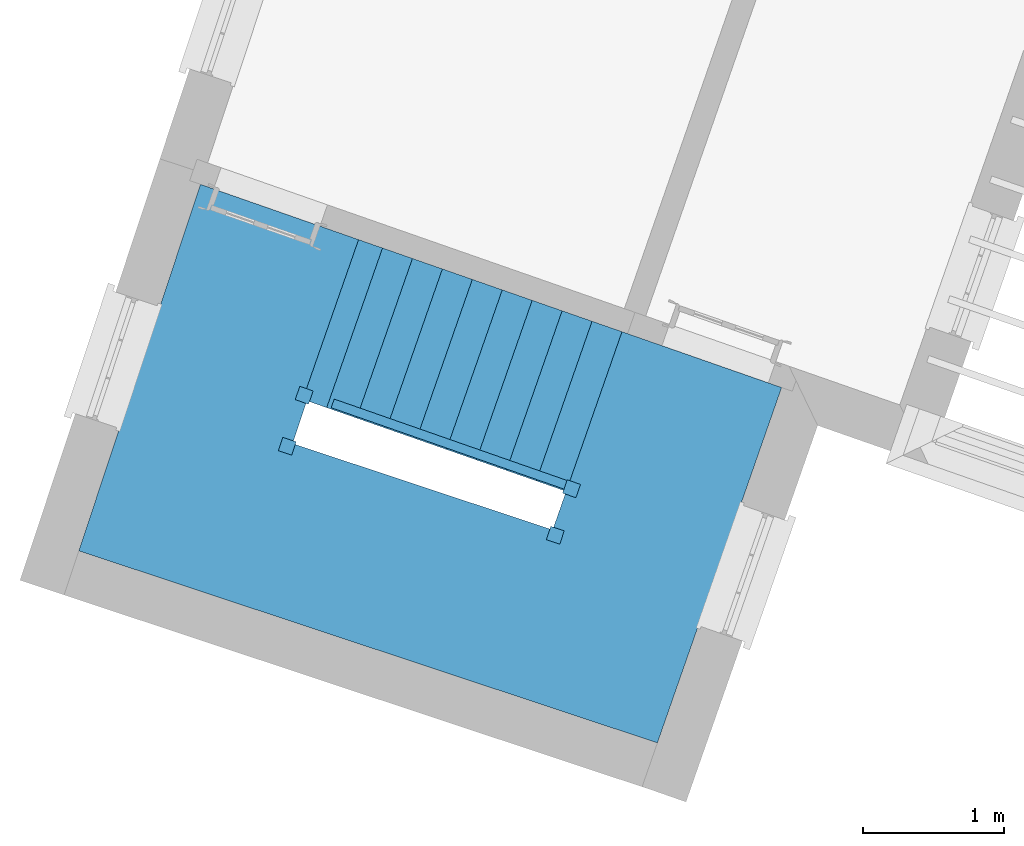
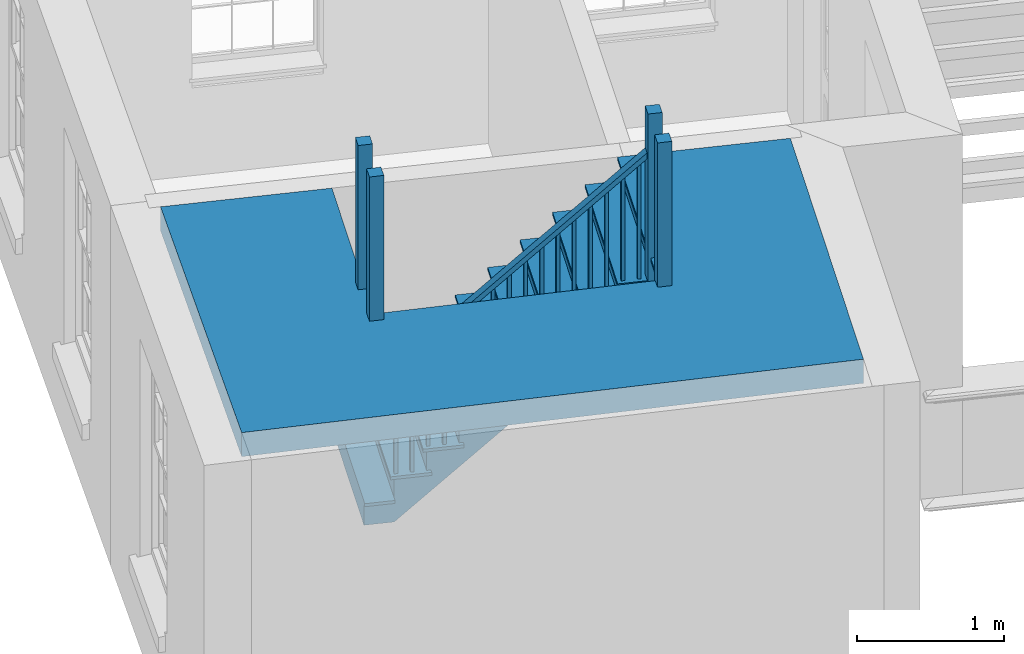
# One storey, part 6 of 6: 1 stair.
"""IFC4 building model written with IfcOpenShell, lengths in metres."""

from ifc_helpers import new_model, si_unit, frame, origin, origin_with_axes, place, context, subcontext, project, spatial, faceted_brep, element, save


model = new_model("IFC4")

# Units and contexts
model_context = context("Model", 3, world=origin_with_axes())
body_context = subcontext(model_context, "Body", "Model", "MODEL_VIEW")
ifc_project = project(units=[si_unit("PLANEANGLEUNIT", "RADIAN"), si_unit("MASSUNIT", "GRAM", prefix="KILO"), si_unit("FORCEUNIT", "NEWTON", prefix="KILO"), si_unit("LENGTHUNIT", "METRE"), si_unit("AREAUNIT", "SQUARE_METRE"), si_unit("VOLUMEUNIT", "CUBIC_METRE")], contexts=[model_context, model_context])

# Sites, building, storey
site_1_placement = place(None, origin_with_axes())
site_1 = spatial("IfcSite", under=ifc_project, at=site_1_placement, Name="Tamar")
site_2_placement = place(site_1_placement, origin_with_axes())
site_2 = spatial("IfcSite", under=site_1, at=site_2_placement, Name="Site plot-15", CompositionType="ELEMENT")
building_placement = place(None, origin_with_axes())
building = spatial("IfcBuilding", under=site_2, at=building_placement, Name="Building plot-15", CompositionType="ELEMENT")
storey_placement = place(None, frame((0.0, 0.0, 29.95), z_axis=(0.0, 0.0, 1.0), x_axis=(1.0, 0.0, 0.0)))
storey = spatial("IfcBuildingStorey", under=building, at=storey_placement, Name="plot-15 1", CompositionType="ELEMENT", Elevation=29.95)

# Stair
stair_placement = place(None, origin())
element("IfcStair", 1, at=stair_placement, inside=storey, Name="Stair", PredefinedType="NOTDEFINED", context=body_context, shape_type="Brep", body=[
    faceted_brep([(257.899192, 304.783267, 32.95), (257.530597, 303.672845, 32.95), (259.432677, 303.041466, 32.95), (259.801272, 304.151888, 32.95), (259.801272, 304.151888, 32.75), (259.432677, 303.041466, 32.75), (257.530597, 303.672845, 32.75), (257.899192, 304.783267, 32.75)], [[[0, 1, 2, 3]], [[4, 5, 6, 7]], [[7, 6, 1, 0]], [[6, 5, 2, 1]], [[5, 4, 3, 2]], [[4, 7, 0, 3]]]),
    faceted_brep([(259.801272, 304.151888, 32.925), (259.810723, 304.18036, 32.925), (259.801272, 304.151888, 32.95), (257.908643, 304.81174, 32.925), (257.899192, 304.783267, 32.925), (257.899192, 304.783267, 32.95), (259.810723, 304.18036, 32.95), (257.908643, 304.81174, 32.95)], [[[0, 1, 2]], [[3, 4, 5]], [[1, 6, 2]], [[7, 3, 5]], [[2, 6, 7, 5]], [[0, 2, 5, 4]], [[1, 0, 4, 3]], [[6, 1, 3, 7]]]),
    faceted_brep([(259.864478, 304.18359, 34.15), (259.76957, 304.215094, 34.15), (259.738066, 304.120186, 34.15), (259.832974, 304.088682, 34.15), (259.832974, 304.088682, 32.95), (259.738066, 304.120186, 32.95), (259.76957, 304.215094, 32.95), (259.864478, 304.18359, 32.95)], [[[0, 1, 2, 3]], [[4, 5, 6, 7]], [[7, 6, 1, 0]], [[6, 5, 2, 1]], [[5, 4, 3, 2]], [[4, 7, 0, 3]]]),
    faceted_brep([(259.801272, 304.151888, 32.95), (259.432677, 303.041466, 32.95), (260.525683, 302.678651, 32.95), (260.905729, 303.765786, 32.95), (260.905729, 303.765786, 32.75), (260.525683, 302.678651, 32.75), (259.432677, 303.041466, 32.75), (259.801272, 304.151888, 32.75)], [[[0, 1, 2, 3]], [[4, 5, 6, 7]], [[7, 6, 1, 0]], [[6, 5, 2, 1]], [[5, 4, 3, 2]], [[4, 7, 0, 3]]]),
    faceted_brep([(260.905729, 303.765786, 32.925), (260.915629, 303.794106, 32.925), (260.905729, 303.765786, 32.95), (259.811172, 304.180207, 32.925), (259.801272, 304.151888, 32.925), (259.801272, 304.151888, 32.95), (260.915629, 303.794106, 32.95), (259.811172, 304.180207, 32.95)], [[[0, 1, 2]], [[3, 4, 5]], [[1, 6, 2]], [[7, 3, 5]], [[2, 6, 7, 5]], [[0, 2, 5, 4]], [[1, 0, 4, 3]], [[6, 1, 3, 7]]]),
    faceted_brep([(259.864478, 304.18359, 32.95), (259.76957, 304.215094, 32.95), (259.738066, 304.120186, 32.95), (259.832974, 304.088682, 32.95), (259.832974, 304.088682, 32.45), (259.738066, 304.120186, 32.45), (259.76957, 304.215094, 32.45), (259.864478, 304.18359, 32.45)], [[[0, 1, 2, 3]], [[4, 5, 6, 7]], [[7, 6, 1, 0]], [[6, 5, 2, 1]], [[5, 4, 3, 2]], [[4, 7, 0, 3]]]),
    faceted_brep([(259.801272, 304.151888, 32.95), (260.905729, 303.765786, 32.95), (261.021107, 304.095826, 32.95), (259.916649, 304.481928, 32.95), (259.916649, 304.481928, 32.75), (261.021107, 304.095826, 32.75), (260.905729, 303.765786, 32.75), (259.801272, 304.151888, 32.75)], [[[0, 1, 2, 3]], [[4, 5, 6, 7]], [[7, 6, 1, 0]], [[6, 5, 2, 1]], [[5, 4, 3, 2]], [[4, 7, 0, 3]]]),
    faceted_brep([(259.916649, 304.481928, 32.925), (259.88833, 304.491828, 32.925), (259.916649, 304.481928, 32.95), (259.772953, 304.161788, 32.925), (259.801272, 304.151888, 32.925), (259.801272, 304.151888, 32.95), (259.88833, 304.491828, 32.95), (259.772953, 304.161788, 32.95)], [[[0, 1, 2]], [[3, 4, 5]], [[1, 6, 2]], [[7, 3, 5]], [[2, 6, 7, 5]], [[0, 2, 5, 4]], [[1, 0, 4, 3]], [[6, 1, 3, 7]]]),
    faceted_brep([(259.88595, 304.545627, 34.15), (259.85295, 304.451229, 34.15), (259.947348, 304.418229, 34.15), (259.980349, 304.512627, 34.15), (259.980349, 304.512627, 32.95), (259.947348, 304.418229, 32.95), (259.85295, 304.451229, 32.95), (259.88595, 304.545627, 32.95)], [[[0, 1, 2, 3]], [[4, 5, 6, 7]], [[7, 6, 1, 0]], [[6, 5, 2, 1]], [[5, 4, 3, 2]], [[4, 7, 0, 3]]]),
    faceted_brep([(259.916649, 304.481928, 32.95), (261.021107, 304.095826, 32.95), (261.407208, 305.200284, 32.95), (260.302751, 305.586385, 32.95), (260.302751, 305.586385, 32.75), (261.407208, 305.200284, 32.75), (261.021107, 304.095826, 32.75), (259.916649, 304.481928, 32.75)], [[[0, 1, 2, 3]], [[4, 5, 6, 7]], [[7, 6, 1, 0]], [[6, 5, 2, 1]], [[5, 4, 3, 2]], [[4, 7, 0, 3]]]),
    faceted_brep([(260.302751, 305.586385, 32.925), (260.274432, 305.596285, 32.925), (260.302751, 305.586385, 32.95), (259.88833, 304.491828, 32.925), (259.916649, 304.481928, 32.925), (259.916649, 304.481928, 32.95), (260.274432, 305.596285, 32.95), (259.88833, 304.491828, 32.95)], [[[0, 1, 2]], [[3, 4, 5]], [[1, 6, 2]], [[7, 3, 5]], [[2, 6, 7, 5]], [[0, 2, 5, 4]], [[1, 0, 4, 3]], [[6, 1, 3, 7]]]),
    faceted_brep([(259.88595, 304.545627, 32.95), (259.85295, 304.451229, 32.95), (259.947348, 304.418229, 32.95), (259.980349, 304.512627, 32.95), (259.980349, 304.512627, 32.45), (259.947348, 304.418229, 32.45), (259.85295, 304.451229, 32.45), (259.88595, 304.545627, 32.45)], [[[0, 1, 2, 3]], [[4, 5, 6, 7]], [[7, 6, 1, 0]], [[6, 5, 2, 1]], [[5, 4, 3, 2]], [[4, 7, 0, 3]]]),
    faceted_brep([(259.916649, 304.481928, 32.75), (260.302751, 305.586385, 32.75), (260.090355, 305.660636, 32.75), (259.704254, 304.556178, 32.75), (259.704254, 304.556178, 32.35), (260.090355, 305.660636, 32.35), (260.302751, 305.586385, 32.55), (259.916649, 304.481928, 32.55)], [[[0, 1, 2, 3]], [[4, 5, 6, 7]], [[7, 6, 1, 0]], [[1, 6, 5, 2]], [[5, 4, 3, 2]], [[3, 4, 7, 0]]]),
    faceted_brep([(260.062036, 305.670536, 32.725), (260.062036, 305.670536, 32.75), (260.090355, 305.660636, 32.725), (260.33107, 305.576485, 32.75), (260.33107, 305.576485, 32.725), (260.302751, 305.586385, 32.725), (260.090355, 305.660636, 32.75), (260.302751, 305.586385, 32.75), (259.666034, 304.537759, 32.75), (259.704254, 304.556178, 32.75), (259.704254, 304.556178, 32.725), (259.666034, 304.537759, 32.725), (259.935069, 304.443709, 32.75), (259.916649, 304.481928, 32.75), (259.916649, 304.481928, 32.725), (259.935069, 304.443709, 32.725)], [[[0, 1, 2]], [[3, 4, 5]], [[2, 1, 6]], [[3, 5, 7]], [[6, 1, 8, 9]], [[2, 6, 9, 10]], [[0, 2, 10, 11]], [[1, 0, 11, 8]], [[9, 8, 12, 13]], [[10, 9, 13, 14]], [[11, 10, 14, 15]], [[8, 11, 15, 12]], [[13, 12, 3, 7]], [[14, 13, 7, 5]], [[15, 14, 5, 4]], [[12, 15, 4, 3]]]),
    faceted_brep([(259.704254, 304.556178, 33.65), (259.727853, 304.547928, 33.65), (259.736103, 304.571528, 33.65), (259.712504, 304.579778, 33.65), (259.712504, 304.579778, 32.75), (259.736103, 304.571528, 32.75), (259.727853, 304.547928, 32.75), (259.704254, 304.556178, 32.75)], [[[0, 1, 2, 3]], [[4, 5, 6, 7]], [[7, 6, 1, 0]], [[6, 5, 2, 1]], [[5, 4, 3, 2]], [[4, 7, 0, 3]]]),
    faceted_brep([(259.810452, 304.519053, 33.75), (259.834051, 304.510803, 33.75), (259.842301, 304.534403, 33.75), (259.818702, 304.542653, 33.75), (259.818702, 304.542653, 32.75), (259.842301, 304.534403, 32.75), (259.834051, 304.510803, 32.75), (259.810452, 304.519053, 32.75)], [[[0, 1, 2, 3]], [[4, 5, 6, 7]], [[7, 6, 1, 0]], [[6, 5, 2, 1]], [[5, 4, 3, 2]], [[4, 7, 0, 3]]]),
    faceted_brep([(259.719104, 304.598658, 33.6), (259.697654, 304.537299, 33.6), (259.697654, 304.537299, 33.65), (259.719104, 304.598658, 33.65), (259.910049, 304.463048, 33.8), (259.9315, 304.524407, 33.8), (259.9315, 304.524407, 33.85), (259.910049, 304.463048, 33.85)], [[[0, 1, 2, 3]], [[4, 5, 6, 7]], [[0, 5, 4, 1]], [[3, 2, 7, 6]], [[0, 3, 6, 5]], [[2, 1, 4, 7]]]),
    faceted_brep([(259.704254, 304.556178, 32.55), (260.090355, 305.660636, 32.55), (259.87796, 305.734886, 32.55), (259.491858, 304.630429, 32.55), (259.491858, 304.630429, 32.15), (259.87796, 305.734886, 32.15), (260.090355, 305.660636, 32.35), (259.704254, 304.556178, 32.35)], [[[0, 1, 2, 3]], [[4, 5, 6, 7]], [[7, 6, 1, 0]], [[1, 6, 5, 2]], [[5, 4, 3, 2]], [[3, 4, 7, 0]]]),
    faceted_brep([(259.84964, 305.744786, 32.525), (259.84964, 305.744786, 32.55), (259.87796, 305.734886, 32.525), (260.118675, 305.650735, 32.55), (260.118675, 305.650735, 32.525), (260.090355, 305.660636, 32.525), (259.87796, 305.734886, 32.55), (260.090355, 305.660636, 32.55), (259.453639, 304.612009, 32.55), (259.491858, 304.630429, 32.55), (259.491858, 304.630429, 32.525), (259.453639, 304.612009, 32.525), (259.722673, 304.517959, 32.55), (259.704254, 304.556178, 32.55), (259.704254, 304.556178, 32.525), (259.722673, 304.517959, 32.525)], [[[0, 1, 2]], [[3, 4, 5]], [[2, 1, 6]], [[3, 5, 7]], [[6, 1, 8, 9]], [[2, 6, 9, 10]], [[0, 2, 10, 11]], [[1, 0, 11, 8]], [[9, 8, 12, 13]], [[10, 9, 13, 14]], [[11, 10, 14, 15]], [[8, 11, 15, 12]], [[13, 12, 3, 7]], [[14, 13, 7, 5]], [[15, 14, 5, 4]], [[12, 15, 4, 3]]]),
    faceted_brep([(259.491858, 304.630429, 33.45), (259.515458, 304.622179, 33.45), (259.523708, 304.645778, 33.45), (259.500108, 304.654028, 33.45), (259.500108, 304.654028, 32.55), (259.523708, 304.645778, 32.55), (259.515458, 304.622179, 32.55), (259.491858, 304.630429, 32.55)], [[[0, 1, 2, 3]], [[4, 5, 6, 7]], [[7, 6, 1, 0]], [[6, 5, 2, 1]], [[5, 4, 3, 2]], [[4, 7, 0, 3]]]),
    faceted_brep([(259.598056, 304.593304, 33.55), (259.621656, 304.585054, 33.55), (259.629906, 304.608653, 33.55), (259.606306, 304.616903, 33.55), (259.606306, 304.616903, 32.55), (259.629906, 304.608653, 32.55), (259.621656, 304.585054, 32.55), (259.598056, 304.593304, 32.55)], [[[0, 1, 2, 3]], [[4, 5, 6, 7]], [[7, 6, 1, 0]], [[6, 5, 2, 1]], [[5, 4, 3, 2]], [[4, 7, 0, 3]]]),
    faceted_brep([(259.506708, 304.672908, 33.4), (259.485258, 304.611549, 33.4), (259.485258, 304.611549, 33.45), (259.506708, 304.672908, 33.45), (259.697654, 304.537299, 33.6), (259.719104, 304.598658, 33.6), (259.719104, 304.598658, 33.65), (259.697654, 304.537299, 33.65)], [[[0, 1, 2, 3]], [[4, 5, 6, 7]], [[0, 5, 4, 1]], [[3, 2, 7, 6]], [[0, 3, 6, 5]], [[2, 1, 4, 7]]]),
    faceted_brep([(259.491858, 304.630429, 32.35), (259.87796, 305.734886, 32.35), (259.665564, 305.809136, 32.35), (259.279463, 304.704679, 32.35), (259.279463, 304.704679, 31.95), (259.665564, 305.809136, 31.95), (259.87796, 305.734886, 32.15), (259.491858, 304.630429, 32.15)], [[[0, 1, 2, 3]], [[4, 5, 6, 7]], [[7, 6, 1, 0]], [[1, 6, 5, 2]], [[5, 4, 3, 2]], [[3, 4, 7, 0]]]),
    faceted_brep([(259.665564, 305.809136, 32.325), (259.637245, 305.819036, 32.325), (259.665564, 305.809136, 32.35), (259.906279, 305.724986, 32.325), (259.87796, 305.734886, 32.325), (259.87796, 305.734886, 32.35), (259.637245, 305.819036, 32.35), (259.906279, 305.724986, 32.35), (259.241243, 304.68626, 32.35), (259.279463, 304.704679, 32.35), (259.279463, 304.704679, 32.325), (259.241243, 304.68626, 32.325), (259.510278, 304.592209, 32.35), (259.491858, 304.630429, 32.35), (259.491858, 304.630429, 32.325), (259.510278, 304.592209, 32.325)], [[[0, 1, 2]], [[3, 4, 5]], [[1, 6, 2]], [[7, 3, 5]], [[2, 6, 8, 9]], [[0, 2, 9, 10]], [[1, 0, 10, 11]], [[6, 1, 11, 8]], [[9, 8, 12, 13]], [[10, 9, 13, 14]], [[11, 10, 14, 15]], [[8, 11, 15, 12]], [[13, 12, 7, 5]], [[14, 13, 5, 4]], [[15, 14, 4, 3]], [[12, 15, 3, 7]]]),
    faceted_brep([(259.279463, 304.704679, 33.25), (259.303062, 304.696429, 33.25), (259.311312, 304.720028, 33.25), (259.287713, 304.728279, 33.25), (259.287713, 304.728279, 32.35), (259.311312, 304.720028, 32.35), (259.303062, 304.696429, 32.35), (259.279463, 304.704679, 32.35)], [[[0, 1, 2, 3]], [[4, 5, 6, 7]], [[7, 6, 1, 0]], [[6, 5, 2, 1]], [[5, 4, 3, 2]], [[4, 7, 0, 3]]]),
    faceted_brep([(259.38566, 304.667554, 33.35), (259.40926, 304.659304, 33.35), (259.41751, 304.682903, 33.35), (259.39391, 304.691153, 33.35), (259.39391, 304.691153, 32.35), (259.41751, 304.682903, 32.35), (259.40926, 304.659304, 32.35), (259.38566, 304.667554, 32.35)], [[[0, 1, 2, 3]], [[4, 5, 6, 7]], [[7, 6, 1, 0]], [[6, 5, 2, 1]], [[5, 4, 3, 2]], [[4, 7, 0, 3]]]),
    faceted_brep([(259.294313, 304.747158, 33.2), (259.272863, 304.685799, 33.2), (259.272863, 304.685799, 33.25), (259.294313, 304.747158, 33.25), (259.485258, 304.611549, 33.4), (259.506708, 304.672908, 33.4), (259.506708, 304.672908, 33.45), (259.485258, 304.611549, 33.45)], [[[0, 1, 2, 3]], [[4, 5, 6, 7]], [[0, 5, 4, 1]], [[3, 2, 7, 6]], [[0, 3, 6, 5]], [[2, 1, 4, 7]]]),
    faceted_brep([(259.279463, 304.704679, 32.15), (259.665564, 305.809136, 32.15), (259.453169, 305.883386, 32.15), (259.067067, 304.778929, 32.15), (259.067067, 304.778929, 31.75), (259.453169, 305.883386, 31.75), (259.665564, 305.809136, 31.95), (259.279463, 304.704679, 31.95)], [[[0, 1, 2, 3]], [[4, 5, 6, 7]], [[7, 6, 1, 0]], [[1, 6, 5, 2]], [[5, 4, 3, 2]], [[3, 4, 7, 0]]]),
    faceted_brep([(259.424849, 305.893286, 32.125), (259.424849, 305.893286, 32.15), (259.453169, 305.883386, 32.125), (259.693884, 305.799236, 32.15), (259.693884, 305.799236, 32.125), (259.665564, 305.809136, 32.125), (259.453169, 305.883386, 32.15), (259.665564, 305.809136, 32.15), (259.028848, 304.76051, 32.15), (259.067067, 304.778929, 32.15), (259.067067, 304.778929, 32.125), (259.028848, 304.76051, 32.125), (259.297882, 304.66646, 32.15), (259.279463, 304.704679, 32.15), (259.279463, 304.704679, 32.125), (259.297882, 304.66646, 32.125)], [[[0, 1, 2]], [[3, 4, 5]], [[2, 1, 6]], [[3, 5, 7]], [[6, 1, 8, 9]], [[2, 6, 9, 10]], [[0, 2, 10, 11]], [[1, 0, 11, 8]], [[9, 8, 12, 13]], [[10, 9, 13, 14]], [[11, 10, 14, 15]], [[8, 11, 15, 12]], [[13, 12, 3, 7]], [[14, 13, 7, 5]], [[15, 14, 5, 4]], [[12, 15, 4, 3]]]),
    faceted_brep([(259.067067, 304.778929, 33.05), (259.090667, 304.770679, 33.05), (259.098917, 304.794279, 33.05), (259.075317, 304.802529, 33.05), (259.075317, 304.802529, 32.15), (259.098917, 304.794279, 32.15), (259.090667, 304.770679, 32.15), (259.067067, 304.778929, 32.15)], [[[0, 1, 2, 3]], [[4, 5, 6, 7]], [[7, 6, 1, 0]], [[6, 5, 2, 1]], [[5, 4, 3, 2]], [[4, 7, 0, 3]]]),
    faceted_brep([(259.173265, 304.741804, 33.15), (259.196864, 304.733554, 33.15), (259.205114, 304.757154, 33.15), (259.181515, 304.765404, 33.15), (259.181515, 304.765404, 32.15), (259.205114, 304.757154, 32.15), (259.196864, 304.733554, 32.15), (259.173265, 304.741804, 32.15)], [[[0, 1, 2, 3]], [[4, 5, 6, 7]], [[7, 6, 1, 0]], [[6, 5, 2, 1]], [[5, 4, 3, 2]], [[4, 7, 0, 3]]]),
    faceted_brep([(259.081917, 304.821408, 33.0), (259.060467, 304.76005, 33.0), (259.060467, 304.76005, 33.05), (259.081917, 304.821408, 33.05), (259.272863, 304.685799, 33.2), (259.294313, 304.747158, 33.2), (259.294313, 304.747158, 33.25), (259.272863, 304.685799, 33.25)], [[[0, 1, 2, 3]], [[4, 5, 6, 7]], [[0, 5, 4, 1]], [[3, 2, 7, 6]], [[0, 3, 6, 5]], [[2, 1, 4, 7]]]),
    faceted_brep([(259.067067, 304.778929, 31.95), (259.453169, 305.883386, 31.95), (259.240773, 305.957637, 31.95), (258.854671, 304.85318, 31.95), (258.854671, 304.85318, 31.55), (259.240773, 305.957637, 31.55), (259.453169, 305.883386, 31.75), (259.067067, 304.778929, 31.75)], [[[0, 1, 2, 3]], [[4, 5, 6, 7]], [[7, 6, 1, 0]], [[1, 6, 5, 2]], [[5, 4, 3, 2]], [[3, 4, 7, 0]]]),
    faceted_brep([(259.240773, 305.957637, 31.925), (259.212454, 305.967537, 31.925), (259.240773, 305.957637, 31.95), (259.481488, 305.873486, 31.925), (259.453169, 305.883386, 31.925), (259.453169, 305.883386, 31.95), (259.212454, 305.967537, 31.95), (259.481488, 305.873486, 31.95), (258.816452, 304.83476, 31.95), (258.854671, 304.85318, 31.95), (258.854671, 304.85318, 31.925), (258.816452, 304.83476, 31.925), (259.085486, 304.74071, 31.95), (259.067067, 304.778929, 31.95), (259.067067, 304.778929, 31.925), (259.085486, 304.74071, 31.925)], [[[0, 1, 2]], [[3, 4, 5]], [[1, 6, 2]], [[7, 3, 5]], [[2, 6, 8, 9]], [[0, 2, 9, 10]], [[1, 0, 10, 11]], [[6, 1, 11, 8]], [[9, 8, 12, 13]], [[10, 9, 13, 14]], [[11, 10, 14, 15]], [[8, 11, 15, 12]], [[13, 12, 7, 5]], [[14, 13, 5, 4]], [[15, 14, 4, 3]], [[12, 15, 3, 7]]]),
    faceted_brep([(258.854671, 304.85318, 32.85), (258.878271, 304.84493, 32.85), (258.886521, 304.868529, 32.85), (258.862921, 304.876779, 32.85), (258.862921, 304.876779, 31.95), (258.886521, 304.868529, 31.95), (258.878271, 304.84493, 31.95), (258.854671, 304.85318, 31.95)], [[[0, 1, 2, 3]], [[4, 5, 6, 7]], [[7, 6, 1, 0]], [[6, 5, 2, 1]], [[5, 4, 3, 2]], [[4, 7, 0, 3]]]),
    faceted_brep([(258.960869, 304.816054, 32.95), (258.984469, 304.807804, 32.95), (258.992719, 304.831404, 32.95), (258.969119, 304.839654, 32.95), (258.969119, 304.839654, 31.95), (258.992719, 304.831404, 31.95), (258.984469, 304.807804, 31.95), (258.960869, 304.816054, 31.95)], [[[0, 1, 2, 3]], [[4, 5, 6, 7]], [[7, 6, 1, 0]], [[6, 5, 2, 1]], [[5, 4, 3, 2]], [[4, 7, 0, 3]]]),
    faceted_brep([(258.869521, 304.895659, 32.8), (258.848071, 304.8343, 32.8), (258.848071, 304.8343, 32.85), (258.869521, 304.895659, 32.85), (259.060467, 304.76005, 33.0), (259.081917, 304.821408, 33.0), (259.081917, 304.821408, 33.05), (259.060467, 304.76005, 33.05)], [[[0, 1, 2, 3]], [[4, 5, 6, 7]], [[0, 5, 4, 1]], [[3, 2, 7, 6]], [[0, 3, 6, 5]], [[2, 1, 4, 7]]]),
    faceted_brep([(258.854671, 304.85318, 31.75), (259.240773, 305.957637, 31.75), (259.028377, 306.031887, 31.75), (258.642276, 304.92743, 31.75), (258.642276, 304.92743, 31.35), (259.028377, 306.031887, 31.35), (259.240773, 305.957637, 31.55), (258.854671, 304.85318, 31.55)], [[[0, 1, 2, 3]], [[4, 5, 6, 7]], [[7, 6, 1, 0]], [[1, 6, 5, 2]], [[5, 4, 3, 2]], [[3, 4, 7, 0]]]),
    faceted_brep([(259.028377, 306.031887, 31.725), (259.000058, 306.041787, 31.725), (259.028377, 306.031887, 31.75), (259.269092, 305.947737, 31.725), (259.240773, 305.957637, 31.725), (259.240773, 305.957637, 31.75), (259.000058, 306.041787, 31.75), (259.269092, 305.947737, 31.75), (258.604056, 304.909011, 31.75), (258.642276, 304.92743, 31.75), (258.642276, 304.92743, 31.725), (258.604056, 304.909011, 31.725), (258.873091, 304.81496, 31.75), (258.854671, 304.85318, 31.75), (258.854671, 304.85318, 31.725), (258.873091, 304.81496, 31.725)], [[[0, 1, 2]], [[3, 4, 5]], [[1, 6, 2]], [[7, 3, 5]], [[2, 6, 8, 9]], [[0, 2, 9, 10]], [[1, 0, 10, 11]], [[6, 1, 11, 8]], [[9, 8, 12, 13]], [[10, 9, 13, 14]], [[11, 10, 14, 15]], [[8, 11, 15, 12]], [[13, 12, 7, 5]], [[14, 13, 5, 4]], [[15, 14, 4, 3]], [[12, 15, 3, 7]]]),
    faceted_brep([(258.642276, 304.92743, 32.65), (258.665875, 304.91918, 32.65), (258.674125, 304.942779, 32.65), (258.650526, 304.951029, 32.65), (258.650526, 304.951029, 31.75), (258.674125, 304.942779, 31.75), (258.665875, 304.91918, 31.75), (258.642276, 304.92743, 31.75)], [[[0, 1, 2, 3]], [[4, 5, 6, 7]], [[7, 6, 1, 0]], [[6, 5, 2, 1]], [[5, 4, 3, 2]], [[4, 7, 0, 3]]]),
    faceted_brep([(258.748474, 304.890305, 32.75), (258.772073, 304.882055, 32.75), (258.780323, 304.905654, 32.75), (258.756724, 304.913904, 32.75), (258.756724, 304.913904, 31.75), (258.780323, 304.905654, 31.75), (258.772073, 304.882055, 31.75), (258.748474, 304.890305, 31.75)], [[[0, 1, 2, 3]], [[4, 5, 6, 7]], [[7, 6, 1, 0]], [[6, 5, 2, 1]], [[5, 4, 3, 2]], [[4, 7, 0, 3]]]),
    faceted_brep([(258.657126, 304.969909, 32.6), (258.635676, 304.90855, 32.6), (258.635676, 304.90855, 32.65), (258.657126, 304.969909, 32.65), (258.848071, 304.8343, 32.8), (258.869521, 304.895659, 32.8), (258.869521, 304.895659, 32.85), (258.848071, 304.8343, 32.85)], [[[0, 1, 2, 3]], [[4, 5, 6, 7]], [[0, 5, 4, 1]], [[3, 2, 7, 6]], [[0, 3, 6, 5]], [[2, 1, 4, 7]]]),
    faceted_brep([(258.642276, 304.92743, 31.55), (259.028377, 306.031887, 31.55), (258.815982, 306.106137, 31.55), (258.42988, 305.00168, 31.55), (258.42988, 305.00168, 31.15), (258.815982, 306.106137, 31.15), (259.028377, 306.031887, 31.35), (258.642276, 304.92743, 31.35)], [[[0, 1, 2, 3]], [[4, 5, 6, 7]], [[7, 6, 1, 0]], [[1, 6, 5, 2]], [[5, 4, 3, 2]], [[3, 4, 7, 0]]]),
    faceted_brep([(258.787662, 306.116037, 31.525), (258.787662, 306.116037, 31.55), (258.815982, 306.106137, 31.525), (259.056697, 306.021987, 31.55), (259.056697, 306.021987, 31.525), (259.028377, 306.031887, 31.525), (258.815982, 306.106137, 31.55), (259.028377, 306.031887, 31.55), (258.391661, 304.983261, 31.55), (258.42988, 305.00168, 31.55), (258.42988, 305.00168, 31.525), (258.391661, 304.983261, 31.525), (258.660695, 304.88921, 31.55), (258.642276, 304.92743, 31.55), (258.642276, 304.92743, 31.525), (258.660695, 304.88921, 31.525)], [[[0, 1, 2]], [[3, 4, 5]], [[2, 1, 6]], [[3, 5, 7]], [[6, 1, 8, 9]], [[2, 6, 9, 10]], [[0, 2, 10, 11]], [[1, 0, 11, 8]], [[9, 8, 12, 13]], [[10, 9, 13, 14]], [[11, 10, 14, 15]], [[8, 11, 15, 12]], [[13, 12, 3, 7]], [[14, 13, 7, 5]], [[15, 14, 5, 4]], [[12, 15, 4, 3]]]),
    faceted_brep([(258.42988, 305.00168, 32.45), (258.45348, 304.99343, 32.45), (258.46173, 305.01703, 32.45), (258.43813, 305.02528, 32.45), (258.43813, 305.02528, 31.55), (258.46173, 305.01703, 31.55), (258.45348, 304.99343, 31.55), (258.42988, 305.00168, 31.55)], [[[0, 1, 2, 3]], [[4, 5, 6, 7]], [[7, 6, 1, 0]], [[6, 5, 2, 1]], [[5, 4, 3, 2]], [[4, 7, 0, 3]]]),
    faceted_brep([(258.536078, 304.964555, 32.55), (258.559678, 304.956305, 32.55), (258.567928, 304.979905, 32.55), (258.544328, 304.988155, 32.55), (258.544328, 304.988155, 31.55), (258.567928, 304.979905, 31.55), (258.559678, 304.956305, 31.55), (258.536078, 304.964555, 31.55)], [[[0, 1, 2, 3]], [[4, 5, 6, 7]], [[7, 6, 1, 0]], [[6, 5, 2, 1]], [[5, 4, 3, 2]], [[4, 7, 0, 3]]]),
    faceted_brep([(258.44473, 305.044159, 32.4), (258.42328, 304.982801, 32.4), (258.42328, 304.982801, 32.45), (258.44473, 305.044159, 32.45), (258.635676, 304.90855, 32.6), (258.657126, 304.969909, 32.6), (258.657126, 304.969909, 32.65), (258.635676, 304.90855, 32.65)], [[[0, 1, 2, 3]], [[4, 5, 6, 7]], [[0, 5, 4, 1]], [[3, 2, 7, 6]], [[0, 3, 6, 5]], [[2, 1, 4, 7]]]),
    faceted_brep([(258.42988, 305.00168, 31.35), (258.815982, 306.106137, 31.35), (258.603586, 306.180388, 31.35), (258.217485, 305.075931, 31.35), (258.217485, 305.075931, 30.95), (258.603586, 306.180388, 30.95), (258.815982, 306.106137, 31.15), (258.42988, 305.00168, 31.15)], [[[0, 1, 2, 3]], [[4, 5, 6, 7]], [[7, 6, 1, 0]], [[1, 6, 5, 2]], [[5, 4, 3, 2]], [[3, 4, 7, 0]]]),
    faceted_brep([(258.575267, 306.190288, 31.325), (258.575267, 306.190288, 31.35), (258.603586, 306.180388, 31.325), (258.844301, 306.096237, 31.35), (258.844301, 306.096237, 31.325), (258.815982, 306.106137, 31.325), (258.603586, 306.180388, 31.35), (258.815982, 306.106137, 31.35), (258.179265, 305.057511, 31.35), (258.217485, 305.075931, 31.35), (258.217485, 305.075931, 31.325), (258.179265, 305.057511, 31.325), (258.4483, 304.963461, 31.35), (258.42988, 305.00168, 31.35), (258.42988, 305.00168, 31.325), (258.4483, 304.963461, 31.325)], [[[0, 1, 2]], [[3, 4, 5]], [[2, 1, 6]], [[3, 5, 7]], [[6, 1, 8, 9]], [[2, 6, 9, 10]], [[0, 2, 10, 11]], [[1, 0, 11, 8]], [[9, 8, 12, 13]], [[10, 9, 13, 14]], [[11, 10, 14, 15]], [[8, 11, 15, 12]], [[13, 12, 3, 7]], [[14, 13, 7, 5]], [[15, 14, 5, 4]], [[12, 15, 4, 3]]]),
    faceted_brep([(258.217485, 305.075931, 32.25), (258.241084, 305.067681, 32.25), (258.249334, 305.09128, 32.25), (258.225735, 305.09953, 32.25), (258.225735, 305.09953, 31.35), (258.249334, 305.09128, 31.35), (258.241084, 305.067681, 31.35), (258.217485, 305.075931, 31.35)], [[[0, 1, 2, 3]], [[4, 5, 6, 7]], [[7, 6, 1, 0]], [[6, 5, 2, 1]], [[5, 4, 3, 2]], [[4, 7, 0, 3]]]),
    faceted_brep([(258.323682, 305.038805, 32.35), (258.347282, 305.030555, 32.35), (258.355532, 305.054155, 32.35), (258.331932, 305.062405, 32.35), (258.331932, 305.062405, 31.35), (258.355532, 305.054155, 31.35), (258.347282, 305.030555, 31.35), (258.323682, 305.038805, 31.35)], [[[0, 1, 2, 3]], [[4, 5, 6, 7]], [[7, 6, 1, 0]], [[6, 5, 2, 1]], [[5, 4, 3, 2]], [[4, 7, 0, 3]]]),
    faceted_brep([(258.232335, 305.11841, 32.2), (258.210885, 305.057051, 32.2), (258.210885, 305.057051, 32.25), (258.232335, 305.11841, 32.25), (258.42328, 304.982801, 32.4), (258.44473, 305.044159, 32.4), (258.44473, 305.044159, 32.45), (258.42328, 304.982801, 32.45)], [[[0, 1, 2, 3]], [[4, 5, 6, 7]], [[0, 5, 4, 1]], [[3, 2, 7, 6]], [[0, 3, 6, 5]], [[2, 1, 4, 7]]]),
    faceted_brep([(258.217485, 305.075931, 31.15), (258.603586, 306.180388, 31.15), (258.405435, 306.249658, 31.15), (258.019333, 305.145201, 31.15), (258.019333, 305.145201, 30.95), (258.405435, 306.249658, 30.95), (258.603586, 306.180388, 30.95), (258.217485, 305.075931, 30.95)], [[[0, 1, 2, 3]], [[4, 5, 6, 7]], [[7, 6, 1, 0]], [[6, 5, 2, 1]], [[5, 4, 3, 2]], [[4, 7, 0, 3]]]),
    faceted_brep([(258.009433, 305.116882, 31.125), (258.009433, 305.116882, 31.15), (258.019333, 305.145201, 31.125), (258.207585, 305.047611, 31.15), (258.207585, 305.047611, 31.125), (258.217485, 305.075931, 31.125), (258.019333, 305.145201, 31.15), (258.217485, 305.075931, 31.15)], [[[0, 1, 2]], [[3, 4, 5]], [[2, 1, 6]], [[3, 5, 7]], [[6, 1, 3, 7]], [[2, 6, 7, 5]], [[0, 2, 5, 4]], [[1, 0, 4, 3]]]),
    faceted_brep([(257.955634, 305.114502, 34.15), (258.050032, 305.081502, 34.15), (258.083032, 305.1759, 34.15), (257.988634, 305.2089, 34.15), (257.988634, 305.2089, 32.95), (258.083032, 305.1759, 32.95), (258.050032, 305.081502, 32.95), (257.955634, 305.114502, 32.95)], [[[0, 1, 2, 3]], [[4, 5, 6, 7]], [[7, 6, 1, 0]], [[6, 5, 2, 1]], [[5, 4, 3, 2]], [[4, 7, 0, 3]]]),
    faceted_brep([(258.019333, 305.145201, 32.95), (258.405435, 306.249658, 32.95), (257.283379, 306.641912, 32.95), (256.908911, 305.513797, 32.95), (256.908911, 305.513797, 32.75), (257.283379, 306.641912, 32.75), (258.405435, 306.249658, 32.75), (258.019333, 305.145201, 32.75)], [[[0, 1, 2, 3]], [[4, 5, 6, 7]], [[7, 6, 1, 0]], [[6, 5, 2, 1]], [[5, 4, 3, 2]], [[4, 7, 0, 3]]]),
    faceted_brep([(256.908911, 305.513797, 32.925), (256.89946, 305.485324, 32.925), (256.908911, 305.513797, 32.95), (258.009882, 305.116729, 32.925), (258.019333, 305.145201, 32.925), (258.019333, 305.145201, 32.95), (256.89946, 305.485324, 32.95), (258.009882, 305.116729, 32.95)], [[[0, 1, 2]], [[3, 4, 5]], [[1, 6, 2]], [[7, 3, 5]], [[2, 6, 7, 5]], [[0, 2, 5, 4]], [[1, 0, 4, 3]], [[6, 1, 3, 7]]]),
    faceted_brep([(257.955634, 305.114502, 32.95), (258.050032, 305.081502, 32.95), (258.083032, 305.1759, 32.95), (257.988634, 305.2089, 32.95), (257.988634, 305.2089, 32.45), (258.083032, 305.1759, 32.45), (258.050032, 305.081502, 32.45), (257.955634, 305.114502, 32.45)], [[[0, 1, 2, 3]], [[4, 5, 6, 7]], [[7, 6, 1, 0]], [[6, 5, 2, 1]], [[5, 4, 3, 2]], [[4, 7, 0, 3]]]),
    faceted_brep([(258.019333, 305.145201, 32.95), (256.908911, 305.513797, 32.95), (256.78877, 305.151862, 32.95), (257.899192, 304.783267, 32.95), (257.899192, 304.783267, 32.75), (256.78877, 305.151862, 32.75), (256.908911, 305.513797, 32.75), (258.019333, 305.145201, 32.75)], [[[0, 1, 2, 3]], [[4, 5, 6, 7]], [[7, 6, 1, 0]], [[6, 5, 2, 1]], [[5, 4, 3, 2]], [[4, 7, 0, 3]]]),
    faceted_brep([(257.927665, 304.773816, 32.925), (257.927665, 304.773816, 32.95), (257.899192, 304.783267, 32.925), (258.047806, 305.13575, 32.95), (258.047806, 305.13575, 32.925), (258.019333, 305.145201, 32.925), (257.899192, 304.783267, 32.95), (258.019333, 305.145201, 32.95)], [[[0, 1, 2]], [[3, 4, 5]], [[2, 1, 6]], [[3, 5, 7]], [[6, 1, 3, 7]], [[2, 6, 7, 5]], [[0, 2, 5, 4]], [[1, 0, 4, 3]]]),
    faceted_brep([(257.930894, 304.720061, 34.15), (257.962398, 304.814969, 34.15), (257.86749, 304.846473, 34.15), (257.835986, 304.751565, 34.15), (257.835986, 304.751565, 32.95), (257.86749, 304.846473, 32.95), (257.962398, 304.814969, 32.95), (257.930894, 304.720061, 32.95)], [[[0, 1, 2, 3]], [[4, 5, 6, 7]], [[7, 6, 1, 0]], [[6, 5, 2, 1]], [[5, 4, 3, 2]], [[4, 7, 0, 3]]]),
    faceted_brep([(257.899192, 304.783267, 32.95), (256.78877, 305.151862, 32.95), (256.420175, 304.04144, 32.95), (257.530597, 303.672845, 32.95), (257.530597, 303.672845, 32.75), (256.420175, 304.04144, 32.75), (256.78877, 305.151862, 32.75), (257.899192, 304.783267, 32.75)], [[[0, 1, 2, 3]], [[4, 5, 6, 7]], [[7, 6, 1, 0]], [[6, 5, 2, 1]], [[5, 4, 3, 2]], [[4, 7, 0, 3]]]),
    faceted_brep([(257.559069, 303.663394, 32.925), (257.559069, 303.663394, 32.95), (257.530597, 303.672845, 32.925), (257.927665, 304.773816, 32.95), (257.927665, 304.773816, 32.925), (257.899192, 304.783267, 32.925), (257.530597, 303.672845, 32.95), (257.899192, 304.783267, 32.95)], [[[0, 1, 2]], [[3, 4, 5]], [[2, 1, 6]], [[3, 5, 7]], [[6, 1, 3, 7]], [[2, 6, 7, 5]], [[0, 2, 5, 4]], [[1, 0, 4, 3]]]),
    faceted_brep([(257.930894, 304.720061, 32.95), (257.962398, 304.814969, 32.95), (257.86749, 304.846473, 32.95), (257.835986, 304.751565, 32.95), (257.835986, 304.751565, 32.45), (257.86749, 304.846473, 32.45), (257.962398, 304.814969, 32.45), (257.930894, 304.720061, 32.45)], [[[0, 1, 2, 3]], [[4, 5, 6, 7]], [[7, 6, 1, 0]], [[6, 5, 2, 1]], [[5, 4, 3, 2]], [[4, 7, 0, 3]]]),
])

save(model, "model.ifc")
